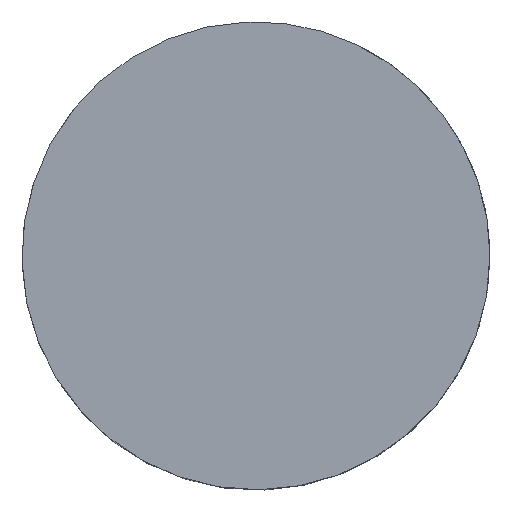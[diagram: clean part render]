
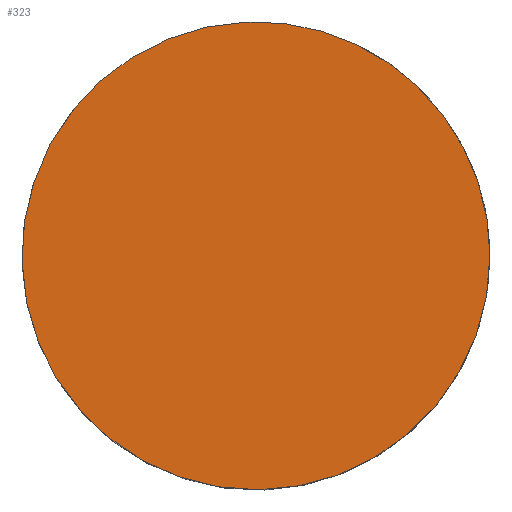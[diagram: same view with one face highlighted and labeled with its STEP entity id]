
A CAD part, top view. The second image highlights one B-rep face of the part: STEP entity #323.
In plain terms, the highlighted planar face has unit normal (0, 0, 1).
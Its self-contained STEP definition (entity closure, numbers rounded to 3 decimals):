
#32=PLANE('',#381);
#83=FACE_OUTER_BOUND('',#135,.T.);
#135=EDGE_LOOP('',(#278));
#164=CIRCLE('',#380,30.);
#192=VERTEX_POINT('',#582);
#222=EDGE_CURVE('',#192,#192,#164,.T.);
#278=ORIENTED_EDGE('',*,*,#222,.T.);
#323=ADVANCED_FACE('',(#83),#32,.T.);
#380=AXIS2_PLACEMENT_3D('',#583,#493,#494);
#381=AXIS2_PLACEMENT_3D('',#584,#495,#496);
#493=DIRECTION('center_axis',(0.,0.,1.));
#494=DIRECTION('ref_axis',(-1.,0.,0.));
#495=DIRECTION('center_axis',(0.,0.,1.));
#496=DIRECTION('ref_axis',(1.,0.,0.));
#582=CARTESIAN_POINT('',(30.,0.,32.));
#583=CARTESIAN_POINT('Origin',(0.,0.,32.));
#584=CARTESIAN_POINT('Origin',(0.,0.,32.));
